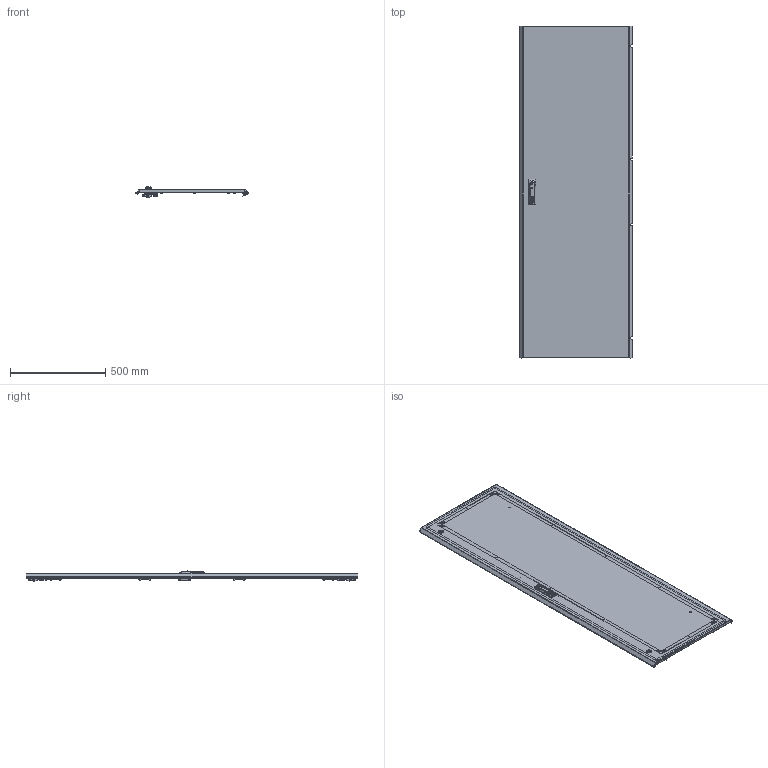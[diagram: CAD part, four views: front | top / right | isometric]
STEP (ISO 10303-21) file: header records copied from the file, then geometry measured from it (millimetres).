
FILE_DESCRIPTION (( 'STEP AP203' ), '1' );
FILE_NAME ('MA1.200.060618.30.00 AleSta-D18M600 Äâåðü ñïëîøíàÿ äëÿ øêàôîâ ALESTA ÂõØ 1800õ600.STEP', '2025-02-19T14:10:46', ( '' ), ( '' ), 'SwSTEP 2.0', 'SolidWorks 2021', '' );
FILE_SCHEMA (( 'CONFIG_CONTROL_DESIGN' ));
Length unit declared in the file: millimetre
Products named in the file (23): äåðæàòåëü_êðóãëîé_òÿãèRG002-RG1010-2-i-RG1010-3-.stp; Áîëò øåñòèãðàííûé Ì5õ12 DIN 933, êëàññ ïðî÷íîñòè 8.8, îöèíêîâàííàÿ ñòàëü; Íàâåñêà íà êîðïóñ ïîä êëåïêó; òÿãà_lg001-2.STEP_‚ =1800; Øïèëüêà Ì6õ12_˜¯¨«ìª  Œ6å20; Ãàéêà ñàìîêîíòðÿùàÿñÿ ñ íåéëîíîâîé âñòàâêîé Ì6 DIN 985, êëàññ ïðî÷íîñòè 8, îöèíêîâàííàÿ ñòàëü_Œ6; MS463-2-3(1); Óïëîòíèòåëü ïàíåëè íèæíåé_‚=1800; MA1.200.060618.30.00 AleSta-D18M600 Äâåðü ñïëîøíàÿ äëÿ øêàôîâ ALESTA ÂõØ 1800õ600; Âèíò ñàìîíàðåçàþùèé ñ ïîòàéíîé ãîëîâêîé Ì5x16 DIN 7500 M TORX, êëàññ ïðî÷íîñòè 8.8, îöèíêîâàííàÿ ñòàëü_Œ5å16; 諘蜱齁罻 022 瀁錒瀔隮; MA1.200.060620.31.04 需沐朦_惃％; MA1.200.060620.31.00 Äâåðü ñïëîøíàÿ äëÿ øêàôîâ ALESTA ÂõØ 2000õ600_1800å600; êðåïëåíèå_êðóãëîé_òÿãè_RG1020-1.stp; MA1.200.060620.31.02 Ðåéêà íà äâåðü âåðòèêàëüíàÿ Â = 2000_‚=1800; MA1.200.060620.31.05 Óãëîâîé óïîð äâåðíîé òÿãè; Øïèëüêà Ì6õ12_˜¯¨«ìª  Œ6å16; Ãàéêà ñàìîêîíòðÿùàÿñÿ ñ íåéëîíîâîé âñòàâêîé Ì6 DIN 985, êëàññ ïðî÷íîñòè 8, îöèíêîâàííàÿ ñòàëü_Œ5; MA1.200.060620.31.03 Ðåéêà íà äâåðü ãîðèçîíòàëüíàÿ Ø = 600_˜ = 600; MA1.200.060620.31.06 赶鎀鍧_100 洵; MA1.200.060620.31.01 Ïîëîòíî äâåðè ñïëîøíîé 2000õ600_1800å600; Âèíò_ðåçüáîâûäàâëèâàþùèé_Ì5õ12_DIN 7500E_Œ5å12; Îñü ïåòëè 4õ52_‚¨­â A.M4x0,5x40 ƒŽ‘’ 11644-75
Assembly tree (84 placements, depth 3):
  MA1.200.060618.30.00 AleSta-D18M600 Äâåðü ñïëîøíàÿ äëÿ øêàôîâ ALESTA ÂõØ 1800õ600
    MA1.200.060620.31.00 Äâåðü ñïëîøíàÿ äëÿ øêàôîâ ALESTA ÂõØ 2000õ600_1800å600
      MA1.200.060620.31.01 Ïîëîòíî äâåðè ñïëîøíîé 2000õ600_1800å600
      Óïëîòíèòåëü ïàíåëè íèæíåé_‚=1800
      Øïèëüêà Ì6õ12_˜¯¨«ìª  Œ6å20  x16
      Øïèëüêà Ì6õ12_˜¯¨«ìª  Œ6å16  x4
    MA1.200.060620.31.03 Ðåéêà íà äâåðü ãîðèçîíòàëüíàÿ Ø = 600_˜ = 600  x2
    諘蜱齁罻 022 瀁錒瀔隮  x4
    MA1.200.060620.31.02 Ðåéêà íà äâåðü âåðòèêàëüíàÿ Â = 2000_‚=1800  x2
    äåðæàòåëü_êðóãëîé_òÿãèRG002-RG1010-2-i-RG1010-3-.stp  x2
    òÿãà_lg001-2.STEP_‚ =1800  x2
    êðåïëåíèå_êðóãëîé_òÿãè_RG1020-1.stp  x2
    MS463-2-3(1)
    Ãàéêà ñàìîêîíòðÿùàÿñÿ ñ íåéëîíîâîé âñòàâêîé Ì6 DIN 985, êëàññ ïðî÷íîñòè 8, îöèíêîâàííàÿ ñòàëü_Œ6  x16
    Ãàéêà ñàìîêîíòðÿùàÿñÿ ñ íåéëîíîâîé âñòàâêîé Ì6 DIN 985, êëàññ ïðî÷íîñòè 8, îöèíêîâàííàÿ ñòàëü_Œ5  x2
    Áîëò øåñòèãðàííûé Ì5õ12 DIN 933, êëàññ ïðî÷íîñòè 8.8, îöèíêîâàííàÿ ñòàëü  x2
    MA1.200.060620.31.05 Óãëîâîé óïîð äâåðíîé òÿãè  x2
    Âèíò_ðåçüáîâûäàâëèâàþùèé_Ì5õ12_DIN 7500E_Œ5å12  x6
    Íàâåñêà íà êîðïóñ ïîä êëåïêó  x4
    Îñü ïåòëè 4õ52_‚¨­â A.M4x0,5x40 ƒŽ‘’ 11644-75  x4
    Âèíò ñàìîíàðåçàþùèé ñ ïîòàéíîé ãîëîâêîé Ì5x16 DIN 7500 M TORX, êëàññ ïðî÷íîñòè 8.8, îöèíêîâàííàÿ ñòàëü_Œ5å16  x8
    MA1.200.060620.31.04 需沐朦_惃％
    MA1.200.060620.31.06 赶鎀鍧_100 洵
Bounding box: 591.81 x 1745 x 52.74 mm (x, y, z)
Volume: 2443568.4 mm3; surface area: 2958523 mm2
Topology: 118 solids, 132 shells, 6069 faces, 15048 edges, 9164 vertices
Faces by surface type: plane 2445, cylinder 2407, bspline 661, cone 261, torus 197, sphere 98
Entity records: 138994 total; most frequent: CARTESIAN_POINT 58732, ORIENTED_EDGE 16218, DIRECTION 15225, EDGE_CURVE 8126, AXIS2_PLACEMENT_3D 5435, VERTEX_POINT 5076, LINE 4355, VECTOR 4355
